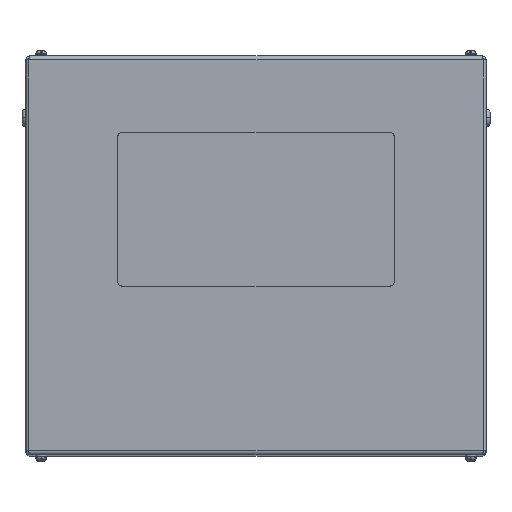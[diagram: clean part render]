
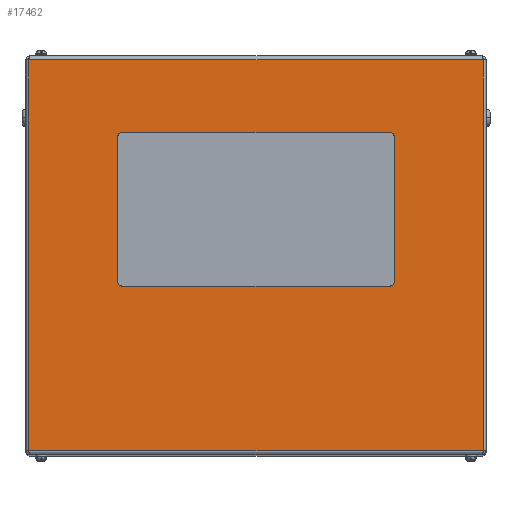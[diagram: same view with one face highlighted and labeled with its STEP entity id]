
A CAD part, top view. The second image highlights one B-rep face of the part: STEP entity #17462.
In plain terms, the highlighted planar face has unit normal (0, 0, 1).
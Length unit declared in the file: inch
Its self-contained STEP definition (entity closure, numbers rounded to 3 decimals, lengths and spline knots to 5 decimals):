
#207 = CIRCLE ( 'NONE', #17536, 0.25 ) ;
#481 = ORIENTED_EDGE ( 'NONE', *, *, #11071, .T. ) ;
#773 = VERTEX_POINT ( 'NONE', #5586 ) ;
#1314 = VERTEX_POINT ( 'NONE', #7298 ) ;
#1323 = EDGE_CURVE ( 'NONE', #9040, #13168, #4523, .T. ) ;
#1420 = CARTESIAN_POINT ( 'NONE',  ( 15., 13., 24. ) ) ;
#1677 = EDGE_CURVE ( 'NONE', #13232, #16880, #207, .T. ) ;
#1803 = CARTESIAN_POINT ( 'NONE',  ( -8.75, -2., 24. ) ) ;
#1882 = CARTESIAN_POINT ( 'NONE',  ( -9., 7.75, 24. ) ) ;
#2139 = DIRECTION ( 'NONE',  ( 0., 0., 1. ) ) ;
#2164 = VERTEX_POINT ( 'NONE', #9706 ) ;
#2221 = ORIENTED_EDGE ( 'NONE', *, *, #1323, .T. ) ;
#2557 = CARTESIAN_POINT ( 'NONE',  ( -14.8, 13., 24. ) ) ;
#2802 = DIRECTION ( 'NONE',  ( -1., 0., 0. ) ) ;
#2805 = CARTESIAN_POINT ( 'NONE',  ( 14.8, 13., 24. ) ) ;
#2812 = LINE ( 'NONE', #8918, #4159 ) ;
#2982 = LINE ( 'NONE', #16316, #13244 ) ;
#3439 = ORIENTED_EDGE ( 'NONE', *, *, #14561, .F. ) ;
#3951 = LINE ( 'NONE', #7869, #9253 ) ;
#4074 = LINE ( 'NONE', #4175, #16271 ) ;
#4159 = VECTOR ( 'NONE', #14731, 39.37008 ) ;
#4175 = CARTESIAN_POINT ( 'NONE',  ( 14.8, -12.734, 24. ) ) ;
#4502 = CARTESIAN_POINT ( 'NONE',  ( 9., -1.75, 24. ) ) ;
#4523 = LINE ( 'NONE', #2805, #4997 ) ;
#4657 = VECTOR ( 'NONE', #5000, 39.37008 ) ;
#4929 = VECTOR ( 'NONE', #6490, 39.37008 ) ;
#4997 = VECTOR ( 'NONE', #10421, 39.37008 ) ;
#5000 = DIRECTION ( 'NONE',  ( 0., -1., 0. ) ) ;
#5067 = AXIS2_PLACEMENT_3D ( 'NONE', #1420, #15152, #2802 ) ;
#5140 = CARTESIAN_POINT ( 'NONE',  ( -8.75, 7.75, 24. ) ) ;
#5364 = EDGE_LOOP ( 'NONE', ( #12677, #8596, #2221, #481 ) ) ;
#5400 = CARTESIAN_POINT ( 'NONE',  ( -9., 7.75, 24. ) ) ;
#5586 = CARTESIAN_POINT ( 'NONE',  ( -8.75, 8., 24. ) ) ;
#5677 = DIRECTION ( 'NONE',  ( 0., -1., 0. ) ) ;
#5749 = CIRCLE ( 'NONE', #15047, 0.25 ) ;
#5802 = DIRECTION ( 'NONE',  ( 0., 0., 1. ) ) ;
#6046 = VERTEX_POINT ( 'NONE', #15393 ) ;
#6297 = LINE ( 'NONE', #1803, #4929 ) ;
#6490 = DIRECTION ( 'NONE',  ( 1., 0., 0. ) ) ;
#6738 = FACE_BOUND ( 'NONE', #12852, .T. ) ;
#6949 = ORIENTED_EDGE ( 'NONE', *, *, #1677, .F. ) ;
#7298 = CARTESIAN_POINT ( 'NONE',  ( 8.75, -2., 24. ) ) ;
#7439 = ORIENTED_EDGE ( 'NONE', *, *, #7986, .F. ) ;
#7450 = CARTESIAN_POINT ( 'NONE',  ( 14.8, -12.734, 24. ) ) ;
#7869 = CARTESIAN_POINT ( 'NONE',  ( 15., 12.734, 24. ) ) ;
#7983 = LINE ( 'NONE', #1882, #4657 ) ;
#7986 = EDGE_CURVE ( 'NONE', #14066, #2164, #2982, .T. ) ;
#8005 = VERTEX_POINT ( 'NONE', #13022 ) ;
#8537 = DIRECTION ( 'NONE',  ( 0., 0., 1. ) ) ;
#8596 = ORIENTED_EDGE ( 'NONE', *, *, #17294, .T. ) ;
#8918 = CARTESIAN_POINT ( 'NONE',  ( -8.75, 8., 24. ) ) ;
#9040 = VERTEX_POINT ( 'NONE', #7450 ) ;
#9253 = VECTOR ( 'NONE', #19297, 39.37008 ) ;
#9706 = CARTESIAN_POINT ( 'NONE',  ( 9., 7.75, 24. ) ) ;
#10061 = ORIENTED_EDGE ( 'NONE', *, *, #19539, .F. ) ;
#10175 = VECTOR ( 'NONE', #5677, 39.37008 ) ;
#10421 = DIRECTION ( 'NONE',  ( 0., 1., 0. ) ) ;
#10639 = ORIENTED_EDGE ( 'NONE', *, *, #14113, .F. ) ;
#10796 = CARTESIAN_POINT ( 'NONE',  ( -9., -1.75, 24. ) ) ;
#11071 = EDGE_CURVE ( 'NONE', #13168, #8005, #3951, .T. ) ;
#11169 = VERTEX_POINT ( 'NONE', #13553 ) ;
#11182 = ORIENTED_EDGE ( 'NONE', *, *, #13645, .F. ) ;
#11251 = DIRECTION ( 'NONE',  ( -1., 0., 0. ) ) ;
#11997 = DIRECTION ( 'NONE',  ( 0., 1., 0. ) ) ;
#12124 = AXIS2_PLACEMENT_3D ( 'NONE', #13411, #5802, #17971 ) ;
#12677 = ORIENTED_EDGE ( 'NONE', *, *, #17552, .T. ) ;
#12852 = EDGE_LOOP ( 'NONE', ( #16366, #6949, #10061, #15333, #3439, #11182, #7439, #10639 ) ) ;
#13022 = CARTESIAN_POINT ( 'NONE',  ( -14.8, 12.734, 24. ) ) ;
#13168 = VERTEX_POINT ( 'NONE', #13717 ) ;
#13232 = VERTEX_POINT ( 'NONE', #10796 ) ;
#13244 = VECTOR ( 'NONE', #11997, 39.37008 ) ;
#13411 = CARTESIAN_POINT ( 'NONE',  ( 8.75, -1.75, 24. ) ) ;
#13553 = CARTESIAN_POINT ( 'NONE',  ( -14.8, -12.734, 24. ) ) ;
#13645 = EDGE_CURVE ( 'NONE', #2164, #6046, #14334, .T. ) ;
#13717 = CARTESIAN_POINT ( 'NONE',  ( 14.8, 12.734, 24. ) ) ;
#14053 = DIRECTION ( 'NONE',  ( 1., 0., 0. ) ) ;
#14066 = VERTEX_POINT ( 'NONE', #4502 ) ;
#14113 = EDGE_CURVE ( 'NONE', #1314, #14066, #14694, .T. ) ;
#14334 = CIRCLE ( 'NONE', #17896, 0.25 ) ;
#14418 = CARTESIAN_POINT ( 'NONE',  ( -8.75, -2., 24. ) ) ;
#14561 = EDGE_CURVE ( 'NONE', #6046, #773, #2812, .T. ) ;
#14580 = DIRECTION ( 'NONE',  ( 1., 0., 0. ) ) ;
#14694 = CIRCLE ( 'NONE', #12124, 0.25 ) ;
#14731 = DIRECTION ( 'NONE',  ( -1., 0., 0. ) ) ;
#14814 = EDGE_CURVE ( 'NONE', #773, #19103, #5749, .T. ) ;
#15047 = AXIS2_PLACEMENT_3D ( 'NONE', #5140, #15577, #14053 ) ;
#15152 = DIRECTION ( 'NONE',  ( 0., 0., -1. ) ) ;
#15333 = ORIENTED_EDGE ( 'NONE', *, *, #14814, .F. ) ;
#15393 = CARTESIAN_POINT ( 'NONE',  ( 8.75, 8., 24. ) ) ;
#15577 = DIRECTION ( 'NONE',  ( 0., 0., 1. ) ) ;
#15981 = CARTESIAN_POINT ( 'NONE',  ( -8.75, -1.75, 24. ) ) ;
#16271 = VECTOR ( 'NONE', #17719, 39.37008 ) ;
#16316 = CARTESIAN_POINT ( 'NONE',  ( 9., 7.75, 24. ) ) ;
#16366 = ORIENTED_EDGE ( 'NONE', *, *, #16814, .F. ) ;
#16814 = EDGE_CURVE ( 'NONE', #16880, #1314, #6297, .T. ) ;
#16880 = VERTEX_POINT ( 'NONE', #14418 ) ;
#17294 = EDGE_CURVE ( 'NONE', #11169, #9040, #4074, .T. ) ;
#17462 = ADVANCED_FACE ( 'NONE', ( #6738, #17881 ), #19584, .F. ) ;
#17536 = AXIS2_PLACEMENT_3D ( 'NONE', #15981, #2139, #14580 ) ;
#17552 = EDGE_CURVE ( 'NONE', #8005, #11169, #19452, .T. ) ;
#17606 = CARTESIAN_POINT ( 'NONE',  ( 8.75, 7.75, 24. ) ) ;
#17719 = DIRECTION ( 'NONE',  ( 1., 0., 0. ) ) ;
#17881 = FACE_OUTER_BOUND ( 'NONE', #5364, .T. ) ;
#17896 = AXIS2_PLACEMENT_3D ( 'NONE', #17606, #8537, #11251 ) ;
#17971 = DIRECTION ( 'NONE',  ( 1., 0., 0. ) ) ;
#19103 = VERTEX_POINT ( 'NONE', #5400 ) ;
#19297 = DIRECTION ( 'NONE',  ( -1., 0., 0. ) ) ;
#19452 = LINE ( 'NONE', #2557, #10175 ) ;
#19539 = EDGE_CURVE ( 'NONE', #19103, #13232, #7983, .T. ) ;
#19584 = PLANE ( 'NONE',  #5067 ) ;
